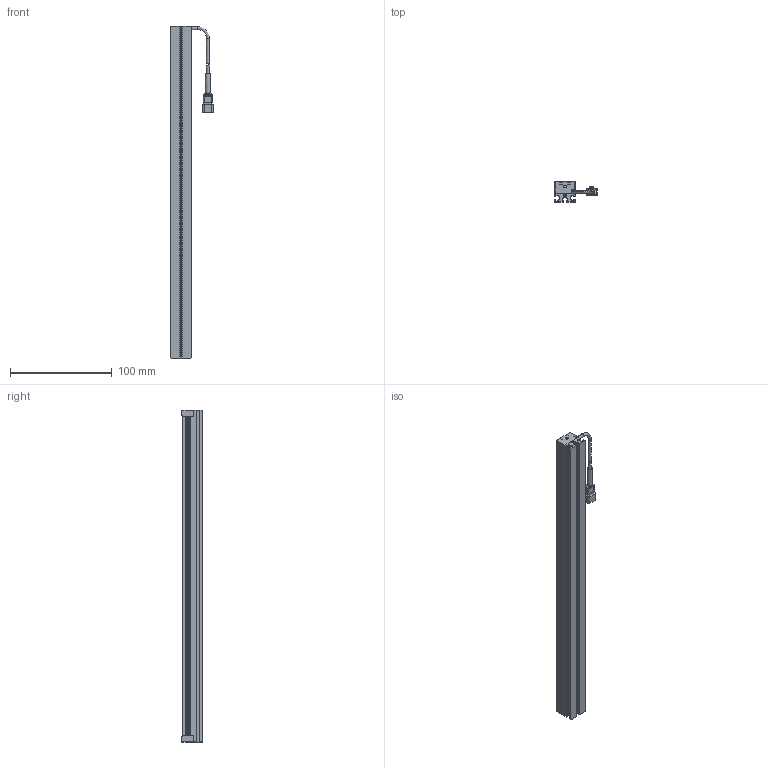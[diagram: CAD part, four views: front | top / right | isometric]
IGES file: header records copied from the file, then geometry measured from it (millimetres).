
Start section: SolidWorks IGES file using NURBS representation for surfaces
Global section: file name: \\nassrv01\ccs_c$\PRODUCTS\80_その他テーマ\RD32114_LDL2-GR2特注の標準化\02_図面\提出用\3D\10_LDL2-314X16GR2\41x16_LDL2-314X16GR2.IGS; native system: SolidWorks 2022; preprocessor: SolidWorks 2022; author: midorikawast; date: 240930.163926; units: millimetre
Bounding box: 41.75 x 20 x 326 mm (x, y, z)
Surface area: 66646.3 mm2 (no closed solid volume)
Topology: 0 solids, 0 shells, 430 faces, 4198 edges, 4190 vertices
Faces by surface type: bspline 430
